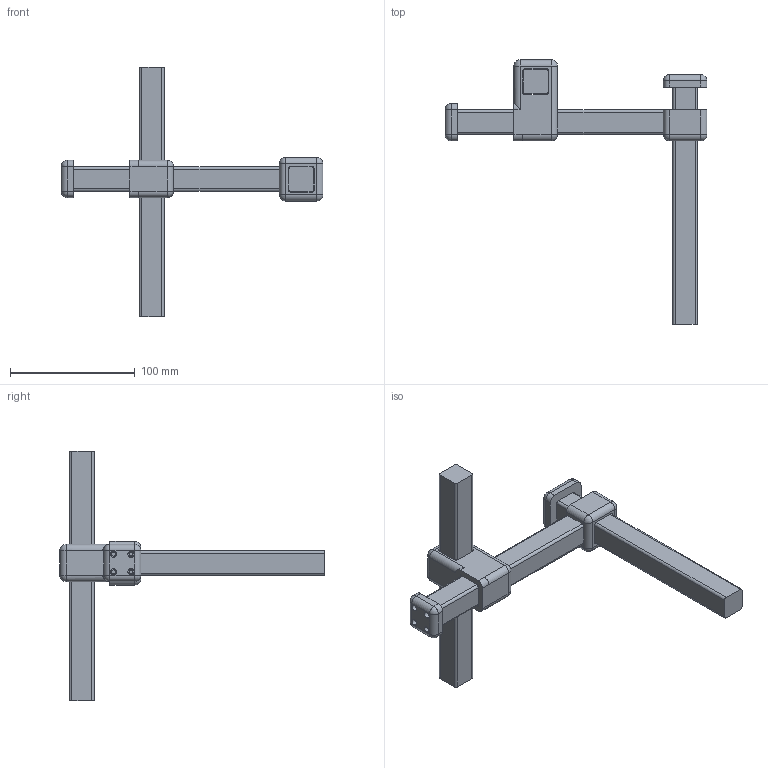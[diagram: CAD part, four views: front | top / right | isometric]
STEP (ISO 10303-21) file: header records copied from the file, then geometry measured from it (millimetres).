
FILE_DESCRIPTION (( 'STEP AP203' ), '1' );
FILE_NAME ('cartesian robot.STEP', '2020-03-04T09:23:03', ( '' ), ( '' ), 'SwSTEP 2.0', 'SolidWorks 2018', '' );
FILE_SCHEMA (( 'CONFIG_CONTROL_DESIGN' ));
Length unit declared in the file: millimetre
Products named in the file (6): cartesian robot; baglanti_parcasi_1; connection_part; x; z; y
Assembly tree (5 placements, depth 2):
  cartesian robot
    x
    baglanti_parcasi_1
    y
    z
    connection_part
Bounding box: 210 x 211.84 x 200 mm (x, y, z)
Volume: 295134.9 mm3; surface area: 69711.6 mm2
Topology: 5 solids, 5 shells, 179 faces, 443 edges, 264 vertices
Faces by surface type: cylinder 93, plane 66, sphere 20
Entity records: 5849 total; most frequent: DIRECTION 963, CARTESIAN_POINT 942, ORIENTED_EDGE 850, EDGE_CURVE 425, AXIS2_PLACEMENT_3D 365, VERTEX_POINT 264, LINE 233, VECTOR 233
